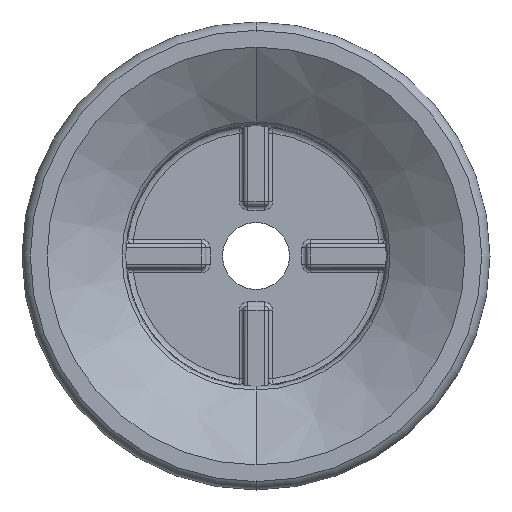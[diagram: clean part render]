
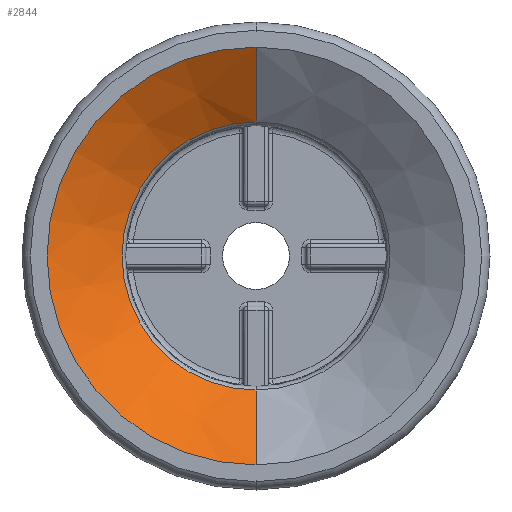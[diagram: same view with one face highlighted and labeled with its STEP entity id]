
A CAD part, front view. The second image highlights one B-rep face of the part: STEP entity #2844.
In plain terms, the highlighted conical face has half-angle 55.442 degrees and reference radius 12.5 mm.
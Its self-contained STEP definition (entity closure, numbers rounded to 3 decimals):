
#246 = CARTESIAN_POINT ( 'NONE',  ( 0., -24., 12.5 ) ) ;
#577 = ORIENTED_EDGE ( 'NONE', *, *, #1562, .F. ) ;
#798 = DIRECTION ( 'NONE',  ( 0., 0., -1. ) ) ;
#1298 = EDGE_CURVE ( 'NONE', #4190, #2573, #3022, .T. ) ;
#1454 = EDGE_CURVE ( 'NONE', #4190, #3385, #5367, .T. ) ;
#1562 = EDGE_CURVE ( 'NONE', #2573, #4923, #3698, .T. ) ;
#1593 = EDGE_LOOP ( 'NONE', ( #4338, #6058, #577, #3644 ) ) ;
#2056 = CARTESIAN_POINT ( 'NONE',  ( 0., -20.912, -8.016 ) ) ;
#2070 = DIRECTION ( 'NONE',  ( 0., 1., 0. ) ) ;
#2319 = AXIS2_PLACEMENT_3D ( 'NONE', #3518, #2070, #6218 ) ;
#2483 = DIRECTION ( 'NONE',  ( 0., -0.567, -0.824 ) ) ;
#2573 = VERTEX_POINT ( 'NONE', #3464 ) ;
#2844 = ADVANCED_FACE ( 'NONE', ( #6407 ), #4109, .F. ) ;
#3022 = LINE ( 'NONE', #4162, #6222 ) ;
#3385 = VERTEX_POINT ( 'NONE', #6712 ) ;
#3427 = CARTESIAN_POINT ( 'NONE',  ( 0., -20.912, 0. ) ) ;
#3464 = CARTESIAN_POINT ( 'NONE',  ( 0., -24., -12.5 ) ) ;
#3518 = CARTESIAN_POINT ( 'NONE',  ( 0., -24., 0. ) ) ;
#3644 = ORIENTED_EDGE ( 'NONE', *, *, #1298, .F. ) ;
#3698 = CIRCLE ( 'NONE', #2319, 12.5 ) ;
#4109 = CONICAL_SURFACE ( 'NONE', #4452, 12.5, 0.968 ) ;
#4162 = CARTESIAN_POINT ( 'NONE',  ( 0., -24., -12.5 ) ) ;
#4190 = VERTEX_POINT ( 'NONE', #2056 ) ;
#4338 = ORIENTED_EDGE ( 'NONE', *, *, #1454, .T. ) ;
#4341 = CARTESIAN_POINT ( 'NONE',  ( 0., -24., 0. ) ) ;
#4452 = AXIS2_PLACEMENT_3D ( 'NONE', #4341, #5881, #798 ) ;
#4616 = EDGE_CURVE ( 'NONE', #3385, #4923, #4862, .T. ) ;
#4862 = LINE ( 'NONE', #246, #5581 ) ;
#4923 = VERTEX_POINT ( 'NONE', #5583 ) ;
#5367 = CIRCLE ( 'NONE', #6021, 8.016 ) ;
#5534 = DIRECTION ( 'NONE',  ( 0., 0., 1. ) ) ;
#5581 = VECTOR ( 'NONE', #6531, 1000. ) ;
#5583 = CARTESIAN_POINT ( 'NONE',  ( 0., -24., 12.5 ) ) ;
#5881 = DIRECTION ( 'NONE',  ( 0., -1., 0. ) ) ;
#5947 = DIRECTION ( 'NONE',  ( 0., 1., 0. ) ) ;
#6021 = AXIS2_PLACEMENT_3D ( 'NONE', #3427, #5947, #5534 ) ;
#6058 = ORIENTED_EDGE ( 'NONE', *, *, #4616, .T. ) ;
#6218 = DIRECTION ( 'NONE',  ( 0., 0., 1. ) ) ;
#6222 = VECTOR ( 'NONE', #2483, 1000. ) ;
#6407 = FACE_OUTER_BOUND ( 'NONE', #1593, .T. ) ;
#6531 = DIRECTION ( 'NONE',  ( 0., -0.567, 0.824 ) ) ;
#6712 = CARTESIAN_POINT ( 'NONE',  ( 0., -20.912, 8.016 ) ) ;
